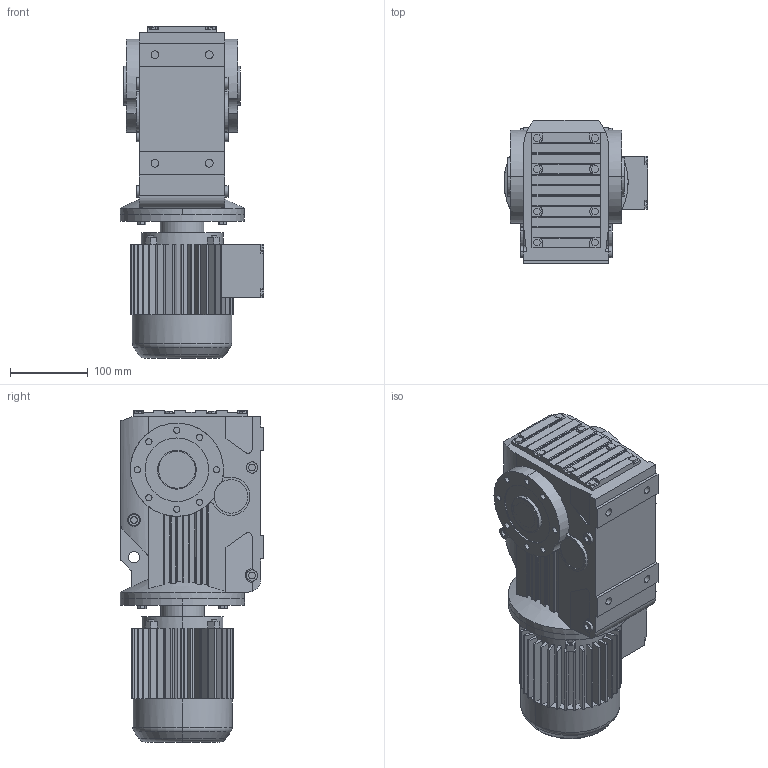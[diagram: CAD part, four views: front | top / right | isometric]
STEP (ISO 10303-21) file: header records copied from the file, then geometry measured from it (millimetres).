
FILE_DESCRIPTION(('Open CASCADE Model'),'2;1');
FILE_NAME('Open CASCADE Shape Model','2018-08-28T18:39:02',('Author'),( 'Open CASCADE'),'Open CASCADE STEP processor 6.3','Open CASCADE 6.3' ,'Unknown');
FILE_SCHEMA(('AUTOMOTIVE_DESIGN_CC2 { 1 2 10303 214 -1 1 5 4 }'));
Length unit declared in the file: millimetre
Products named in the file (4): 35_KA47DR63-A; KA37‵107_47.step; 萇儂_160-DR63-185-240-132-105.step; す瑩諾陑粣K_47.step
Assembly tree (3 placements, depth 2):
  35_KA47DR63-A
    KA37‵107_47.step
    萇儂_160-DR63-185-240-132-105.step
    す瑩諾陑粣K_47.step
Bounding box: 185.5 x 185 x 428 mm (x, y, z)
Volume: 6940164.5 mm3; surface area: 489194.2 mm2
Topology: 3 solids, 3 shells, 842 faces, 2198 edges, 1433 vertices
Faces by surface type: plane 554, cylinder 280, cone 4, torus 4
Entity records: 62744 total; most frequent: CARTESIAN_POINT 21519, DIRECTION 6907, ORIENTED_EDGE 4396, PCURVE 4396, DEFINITIONAL_REPRESENTATION 4396, LINE 3595, VECTOR 3595, EDGE_CURVE 2198
